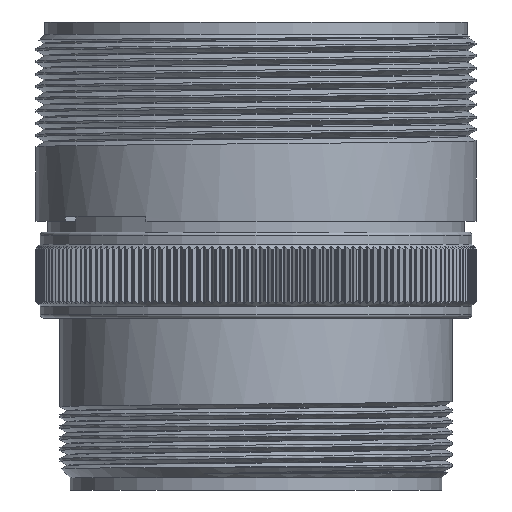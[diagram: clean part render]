
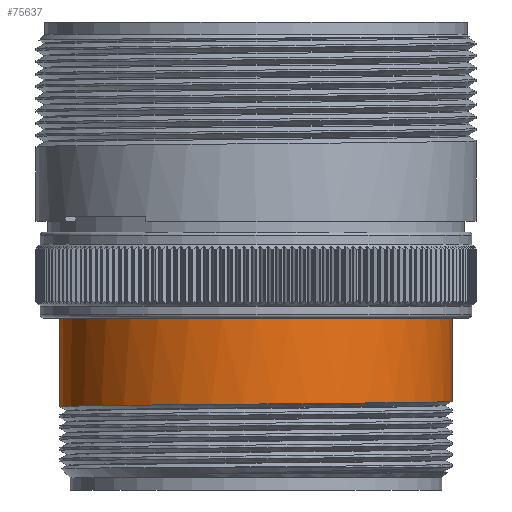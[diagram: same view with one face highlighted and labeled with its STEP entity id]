
A CAD part, front view. The second image highlights one B-rep face of the part: STEP entity #75637.
In plain terms, the highlighted cylindrical face has radius 25.355 mm (diameter 50.71 mm), a partial arc.
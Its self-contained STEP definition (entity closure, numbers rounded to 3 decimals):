
#6654 = CARTESIAN_POINT ( 'NONE',  ( -25.355, 0., -49.739 ) ) ;
#8971 = CARTESIAN_POINT ( 'NONE',  ( 14.639, -25.355, -49.268 ) ) ;
#15840 = VERTEX_POINT ( 'NONE', #6654 ) ;
#16350 = DIRECTION ( 'NONE',  ( 0., 0., 1. ) ) ;
#19416 = CARTESIAN_POINT ( 'NONE',  ( 0., 0., -38.27 ) ) ;
#20100 = DIRECTION ( 'NONE',  ( 0., 0., 1. ) ) ;
#21885 = DIRECTION ( 'NONE',  ( 0., 0., 1. ) ) ;
#24365 = CARTESIAN_POINT ( 'NONE',  ( 25.355, -6.794, -49.096 ) ) ;
#28557 = VERTEX_POINT ( 'NONE', #133746 ) ;
#30846 = CARTESIAN_POINT ( 'NONE',  ( 25.355, 0., -49.033 ) ) ;
#34873 = DIRECTION ( 'NONE',  ( 1., 0., 0. ) ) ;
#43282 = CYLINDRICAL_SURFACE ( 'NONE', #130998, 25.355 ) ;
#43441 = VECTOR ( 'NONE', #16350, 1000. ) ;
#56325 = LINE ( 'NONE', #113784, #133115 ) ;
#59015 = EDGE_CURVE ( 'NONE', #15840, #103008, #63649, .T. ) ;
#62284 = CIRCLE ( 'NONE', #114294, 25.355 ) ;
#63649 =( BOUNDED_CURVE ( )  B_SPLINE_CURVE ( 2, ( #70008, #146544, #85468, #192869, #100843, #8971, #116242, #24365, #131680 ),
 .UNSPECIFIED., .F., .F. ) 
 B_SPLINE_CURVE_WITH_KNOTS ( ( 3, 2, 2, 2, 3 ),
 ( 0.906, 0.917, 0.938, 0.958, 0.969 ),
 .UNSPECIFIED. ) 
 CURVE ( )  GEOMETRIC_REPRESENTATION_ITEM ( )  RATIONAL_B_SPLINE_CURVE ( ( 0.933, 0.933, 1., 0.866, 1., 0.866, 1., 0.933, 0.933 ) ) 
 REPRESENTATION_ITEM ( '' )  );
#67372 = ORIENTED_EDGE ( 'NONE', *, *, #152043, .T. ) ;
#70008 = CARTESIAN_POINT ( 'NONE',  ( -25.355, 0., -49.739 ) ) ;
#75637 = ADVANCED_FACE ( 'NONE', ( #165717 ), #43282, .T. ) ;
#85468 = CARTESIAN_POINT ( 'NONE',  ( -21.958, -12.677, -49.621 ) ) ;
#89751 = EDGE_LOOP ( 'NONE', ( #106357, #198142, #67372, #170379 ) ) ;
#100843 = CARTESIAN_POINT ( 'NONE',  ( 0., -25.355, -49.386 ) ) ;
#103008 = VERTEX_POINT ( 'NONE', #30846 ) ;
#106357 = ORIENTED_EDGE ( 'NONE', *, *, #116879, .F. ) ;
#112001 = DIRECTION ( 'NONE',  ( 1., 0., 0. ) ) ;
#113784 = CARTESIAN_POINT ( 'NONE',  ( 25.355, 0., -27.16 ) ) ;
#114294 = AXIS2_PLACEMENT_3D ( 'NONE', #19416, #126719, #34873 ) ;
#116242 = CARTESIAN_POINT ( 'NONE',  ( 21.958, -12.678, -49.151 ) ) ;
#116879 = EDGE_CURVE ( 'NONE', #15840, #193245, #197148, .T. ) ;
#123621 = CARTESIAN_POINT ( 'NONE',  ( -25.355, 0., -27.16 ) ) ;
#126719 = DIRECTION ( 'NONE',  ( 0., 0., 1. ) ) ;
#130998 = AXIS2_PLACEMENT_3D ( 'NONE', #143590, #20100, #112001 ) ;
#131680 = CARTESIAN_POINT ( 'NONE',  ( 25.355, 0., -49.033 ) ) ;
#133115 = VECTOR ( 'NONE', #21885, 1000. ) ;
#133746 = CARTESIAN_POINT ( 'NONE',  ( 25.355, 0., -38.27 ) ) ;
#143590 = CARTESIAN_POINT ( 'NONE',  ( 0., 0., -27.16 ) ) ;
#146544 = CARTESIAN_POINT ( 'NONE',  ( -25.355, -6.794, -49.675 ) ) ;
#152043 = EDGE_CURVE ( 'NONE', #103008, #28557, #56325, .T. ) ;
#164119 = CARTESIAN_POINT ( 'NONE',  ( -25.355, 0., -38.27 ) ) ;
#165717 = FACE_OUTER_BOUND ( 'NONE', #89751, .T. ) ;
#170379 = ORIENTED_EDGE ( 'NONE', *, *, #181351, .F. ) ;
#181351 = EDGE_CURVE ( 'NONE', #193245, #28557, #62284, .T. ) ;
#192869 = CARTESIAN_POINT ( 'NONE',  ( -14.639, -25.355, -49.503 ) ) ;
#193245 = VERTEX_POINT ( 'NONE', #164119 ) ;
#197148 = LINE ( 'NONE', #123621, #43441 ) ;
#198142 = ORIENTED_EDGE ( 'NONE', *, *, #59015, .T. ) ;
